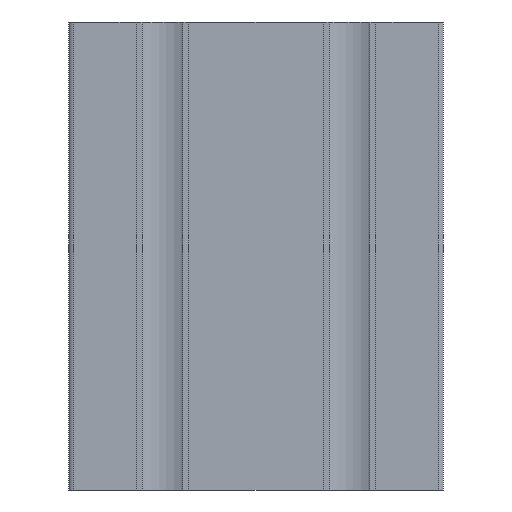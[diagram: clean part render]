
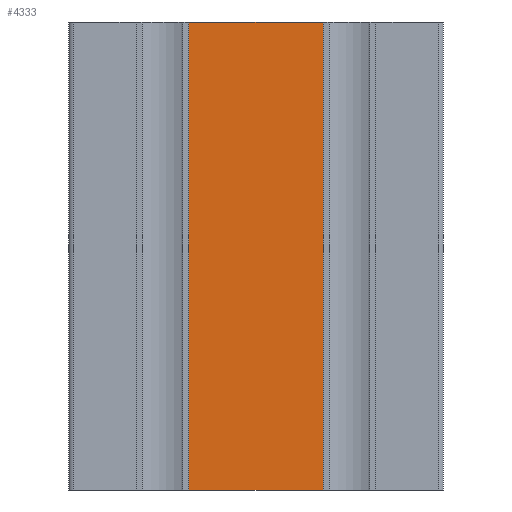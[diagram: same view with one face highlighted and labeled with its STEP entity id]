
A CAD part, front view. The second image highlights one B-rep face of the part: STEP entity #4333.
In plain terms, the highlighted planar face has unit normal (0, -1, 0).
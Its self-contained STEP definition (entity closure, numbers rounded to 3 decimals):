
#156=PLANE('',#4679);
#367=FACE_OUTER_BOUND('',#585,.T.);
#585=EDGE_LOOP('',(#3545,#3546,#3547,#3548));
#1051=LINE('',#7016,#1547);
#1052=LINE('',#7019,#1548);
#1053=LINE('',#7021,#1549);
#1054=LINE('',#7022,#1550);
#1547=VECTOR('',#5763,10.);
#1548=VECTOR('',#5766,10.);
#1549=VECTOR('',#5767,10.);
#1550=VECTOR('',#5768,10.);
#2129=VERTEX_POINT('',#7012);
#2130=VERTEX_POINT('',#7014);
#2131=VERTEX_POINT('',#7018);
#2132=VERTEX_POINT('',#7020);
#2733=EDGE_CURVE('',#2129,#2130,#1051,.T.);
#2734=EDGE_CURVE('',#2129,#2131,#1052,.T.);
#2735=EDGE_CURVE('',#2132,#2130,#1053,.T.);
#2736=EDGE_CURVE('',#2131,#2132,#1054,.T.);
#3545=ORIENTED_EDGE('',*,*,#2734,.F.);
#3546=ORIENTED_EDGE('',*,*,#2733,.T.);
#3547=ORIENTED_EDGE('',*,*,#2735,.F.);
#3548=ORIENTED_EDGE('',*,*,#2736,.F.);
#4333=ADVANCED_FACE('',(#367),#156,.T.);
#4679=AXIS2_PLACEMENT_3D('',#7017,#5764,#5765);
#5763=DIRECTION('',(0.,0.,1.));
#5764=DIRECTION('center_axis',(0.,-1.,0.));
#5765=DIRECTION('ref_axis',(1.,0.,0.));
#5766=DIRECTION('',(-1.,0.,0.));
#5767=DIRECTION('',(1.,0.,0.));
#5768=DIRECTION('',(0.,0.,1.));
#7012=CARTESIAN_POINT('',(60.386,5.101,0.));
#7014=CARTESIAN_POINT('',(60.386,5.101,100.));
#7016=CARTESIAN_POINT('',(60.386,5.101,0.));
#7017=CARTESIAN_POINT('Origin',(31.586,5.101,0.));
#7018=CARTESIAN_POINT('',(31.586,5.101,0.));
#7019=CARTESIAN_POINT('',(60.386,5.101,0.));
#7020=CARTESIAN_POINT('',(31.586,5.101,100.));
#7021=CARTESIAN_POINT('',(60.386,5.101,100.));
#7022=CARTESIAN_POINT('',(31.586,5.101,0.));
